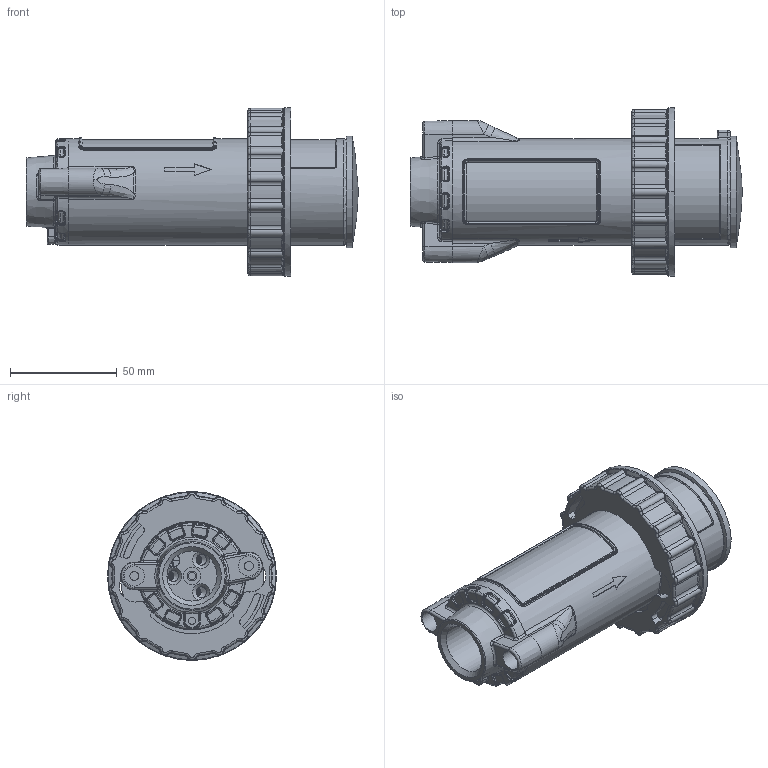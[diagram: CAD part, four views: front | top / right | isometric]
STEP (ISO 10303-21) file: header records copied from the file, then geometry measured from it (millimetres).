
FILE_DESCRIPTION (( 'STEP AP214' ), '1' );
FILE_NAME ('ÂÃÌ-16-24-2_Ì25õ1,5_Ì2.STEP', '2023-02-08T10:55:48', ( '' ), ( '' ), 'SwSTEP 2.0', 'SolidWorks 2018', '' );
FILE_SCHEMA (( 'AUTOMOTIVE_DESIGN' ));
Length unit declared in the file: millimetre
Products named in the file (1): ÂÃÌ-16-24-2_Ì25õ1,5_Ì2
Bounding box: 155.6 x 79 x 79 mm (x, y, z)
Volume: 177833.1 mm3; surface area: 97223 mm2
Topology: 5 solids, 9 shells, 1600 faces, 3827 edges, 2288 vertices
Faces by surface type: cylinder 466, plane 306, cone 297, bspline 265, torus 253, sphere 13
Full cylindrical faces by diameter (mm): 3.3 x17, 4 x73, 4.3 x4, 4.5 x4, 5 x8, 5.1 x2, 5.4 x1, 6 x3, 7 x1, 7.1 x1, 8 x1, 9 x3, 9.5 x5, 23.5 x1, 27 x1, 37 x1, 40 x1, 42.5 x1, 43 x3, 50 x2, 52.207 x1
Entity records: 80131 total; most frequent: CARTESIAN_POINT 29683, ORIENTED_EDGE 6672, DIRECTION 6391, EDGE_CURVE 3336, AXIS2_PLACEMENT_3D 2760, VERTEX_POINT 2159, EDGE_LOOP 2045, FACE_OUTER_BOUND 1741
